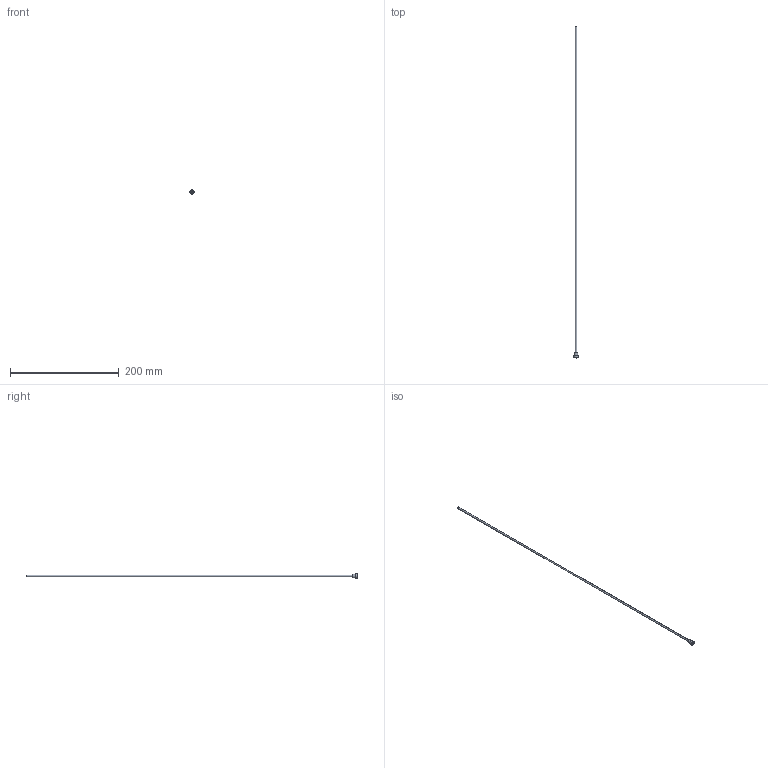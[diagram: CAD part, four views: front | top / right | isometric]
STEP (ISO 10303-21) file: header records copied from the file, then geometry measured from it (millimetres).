
FILE_DESCRIPTION(/* description */ (''),/* implementation_level */ '2;1');
FILE_NAME(/* name */ 'C:/Users/drich/Desktop/JR125T-24 v2.step',/* time_stamp */ '2019-12-30T13:02:29-06:00',/* author */ (''),/* organization */ (''),/* preprocessor_version */ 'ST-DEVELOPER v18',/* originating_system */ 'Autodesk Translation Framework v8.12.0.6',/* authorisation */ '');
FILE_SCHEMA (('AUTOMOTIVE_DESIGN { 1 0 10303 214 3 1 1 }'));
Length unit declared in the file: inch
Products named in the file (1): JR125T-24
Bounding box: 7.8 x 609.6 x 7.8 mm (x, y, z)
Volume: 1433.9 mm3; surface area: 11499.9 mm2
Topology: 1 solids, 1 shells, 19 faces, 47 edges, 33 vertices
Faces by surface type: plane 11, cylinder 4, torus 3, cone 1
Full cylindrical faces by diameter (mm): 2.743 x1, 3.15 x1, 6.243 x1, 7.798 x1
Entity records: 624 total; most frequent: DIRECTION 111, CARTESIAN_POINT 100, ORIENTED_EDGE 94, EDGE_CURVE 47, AXIS2_PLACEMENT_3D 44, VERTEX_POINT 33, EDGE_LOOP 24, CIRCLE 24
